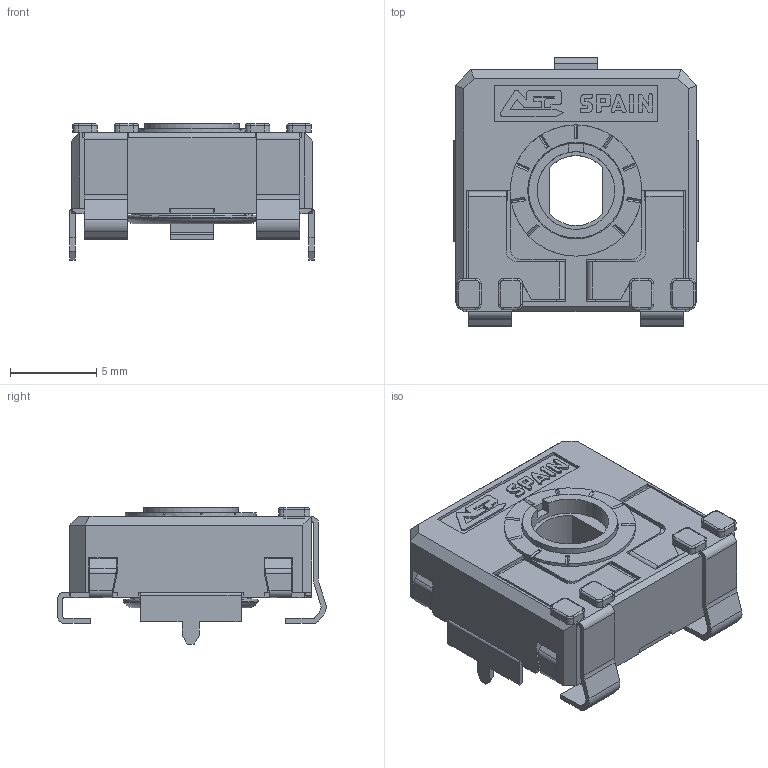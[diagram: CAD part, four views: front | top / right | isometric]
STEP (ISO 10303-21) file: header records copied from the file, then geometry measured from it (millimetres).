
FILE_DESCRIPTION(/* description */ (''),/* implementation_level */ '2;1');
FILE_NAME(/* name */ '\\SERVERACP\intercambio\Ignacio Santa Cecilia\Nueva WEB 2025\CA14 - CE14\CA14ZVSMD CY.stp',/* time_stamp */ '2025-07-01T12:08:35+02:00',/* author */ ('CEM'),/* organization */ (''),/* preprocessor_version */ 'ST-DEVELOPER v17',/* originating_system */ 'Autodesk Inventor 2018',/* authorisation */ '');
FILE_SCHEMA (('AUTOMOTIVE_DESIGN { 1 0 10303 214 3 1 1 }'));
Length unit declared in the file: millimetre
Products named in the file (1): CARCASA CA14 PGA
Bounding box: 14.15 x 15.55 x 7.9 mm (x, y, z)
Volume: 541.8 mm3; surface area: 1525.1 mm2
Topology: 1 solids, 1 shells, 698 faces, 1977 edges, 1275 vertices
Faces by surface type: plane 506, cylinder 155, torus 23, bspline 8, cone 6
Full cylindrical faces by diameter (mm): 4.5 x1, 5.5 x1, 5.6 x1, 5.752 x1, 6.8 x1, 7.6 x1
Entity records: 22897 total; most frequent: CARTESIAN_POINT 4248, ORIENTED_EDGE 3954, DIRECTION 3709, EDGE_CURVE 1977, LINE 1537, VECTOR 1537, VERTEX_POINT 1275, AXIS2_PLACEMENT_3D 1086
